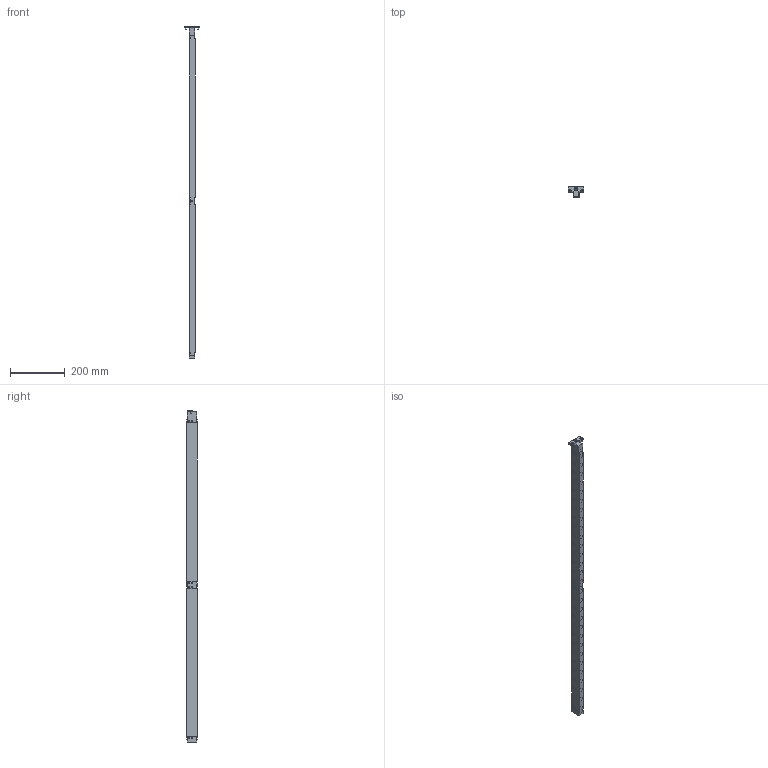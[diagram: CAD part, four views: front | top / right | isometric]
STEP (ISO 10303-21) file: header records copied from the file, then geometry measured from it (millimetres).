
FILE_DESCRIPTION(/* description */ (''),/* implementation_level */ '2;1');
FILE_NAME(/* name */ 'S:\EASCN Vault\Designs\Standard Part\DIE LIFTERS\EHB\EHB- 3D step\EHB22 - 3D step complete serie\EHB 22-29.stp',/* time_stamp */ '2019-11-21T14:54:57+08:00',/* author */ ('yue.yang'),/* organization */ (''),/* preprocessor_version */ 'ST-DEVELOPER v17',/* originating_system */ 'Autodesk Inventor 2019',/* authorisation */ '');
FILE_SCHEMA (('AUTOMOTIVE_DESIGN { 1 0 10303 214 3 1 1 }'));
Length unit declared in the file: millimetre
Products named in the file (1): EHB 22-29_Shrinkwrap_1
Bounding box: 58 x 37.8 x 1209 mm (x, y, z)
Volume: 774457.9 mm3; surface area: 311939.5 mm2
Topology: 106 solids, 106 shells, 1040 faces, 2854 edges, 2056 vertices
Faces by surface type: plane 378, cylinder 329, cone 159, torus 145, sphere 29
Full cylindrical faces by diameter (mm): 3 x3, 4.134 x1, 5 x27, 5.5 x5, 6 x31, 6.647 x2, 8 x2, 10 x8, 10.5 x1, 12.2 x29, 16 x29, 16.4 x29, 17.05 x29, 19.05 x29, 19.2 x29
Entity records: 38669 total; most frequent: CARTESIAN_POINT 9496, DIRECTION 6336, ORIENTED_EDGE 5522, AXIS2_PLACEMENT_3D 2777, EDGE_CURVE 2761, VERTEX_POINT 2056, CIRCLE 1734, EDGE_LOOP 1343
